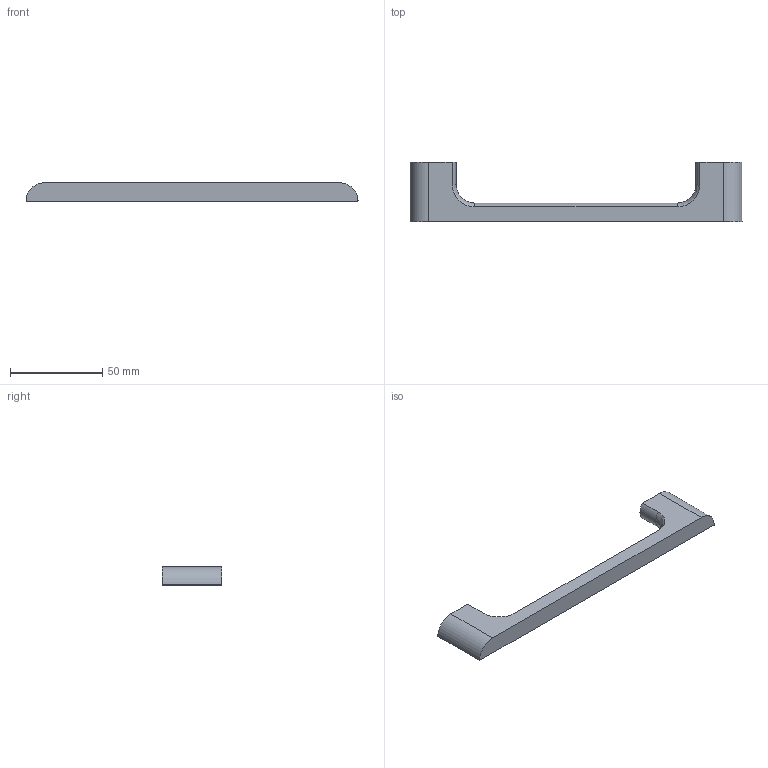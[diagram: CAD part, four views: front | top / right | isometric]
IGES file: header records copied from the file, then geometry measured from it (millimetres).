
Start section: Data from Parasolid IGES Translator 15.0.47, Copyright(c) 2006 Siemens P LM Software. All Rights Reserved.
Global section: file name: 9080859.igs; native system:  By UGS Corp.; preprocessor: XPlus GENERIC/IGES 3.0; author: Noname; organization: Noname; date: 20140122.153401; units: millimetre
Bounding box: 179.99 x 32 x 10 mm (x, y, z)
Surface area: 9853.5 mm2 (no closed solid volume)
Topology: 0 solids, 0 shells, 20 faces, 96 edges, 94 vertices
Faces by surface type: revolution 13, extrusion 7
